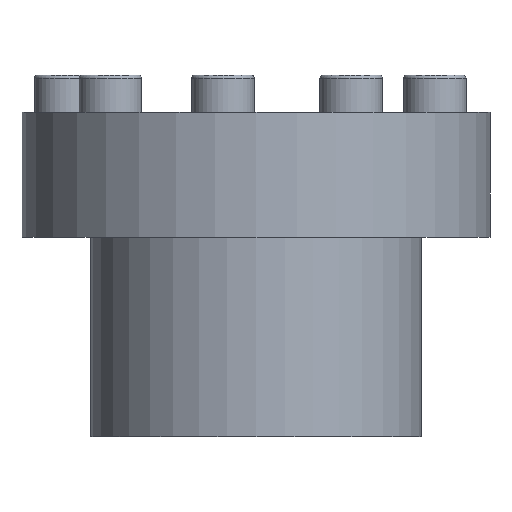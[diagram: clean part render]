
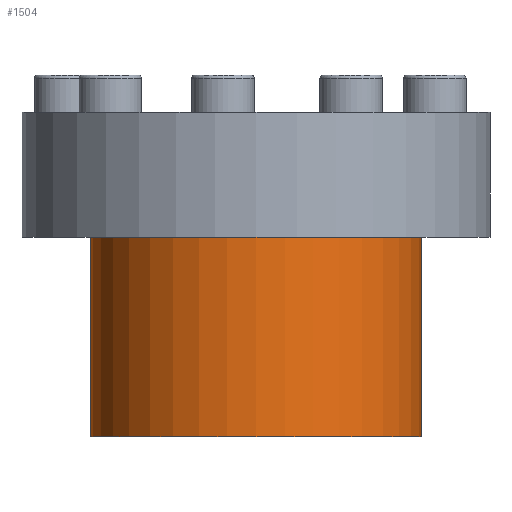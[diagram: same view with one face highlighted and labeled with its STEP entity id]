
A CAD part, front view. The second image highlights one B-rep face of the part: STEP entity #1504.
In plain terms, the highlighted cylindrical face has radius 26.5 mm (diameter 53 mm), a partial arc.
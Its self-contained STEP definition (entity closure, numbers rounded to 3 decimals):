
#6 = ORIENTED_EDGE ( 'NONE', *, *, #550, .F. ) ;
#21 = CARTESIAN_POINT ( 'NONE',  ( 0., 0., -20. ) ) ;
#147 = VERTEX_POINT ( 'NONE', #2901 ) ;
#245 = AXIS2_PLACEMENT_3D ( 'NONE', #21, #2679, #1377 ) ;
#470 = DIRECTION ( 'NONE',  ( 0., 0., 1. ) ) ;
#550 = EDGE_CURVE ( 'NONE', #147, #1762, #2880, .T. ) ;
#657 = DIRECTION ( 'NONE',  ( 0., 0., 1. ) ) ;
#700 = VECTOR ( 'NONE', #735, 1000. ) ;
#735 = DIRECTION ( 'NONE',  ( 0., 0., 1. ) ) ;
#781 = LINE ( 'NONE', #3237, #2101 ) ;
#900 = LINE ( 'NONE', #978, #700 ) ;
#978 = CARTESIAN_POINT ( 'NONE',  ( -26.5, 0., 0. ) ) ;
#1117 = AXIS2_PLACEMENT_3D ( 'NONE', #1703, #2453, #2433 ) ;
#1151 = FACE_OUTER_BOUND ( 'NONE', #2328, .T. ) ;
#1169 = ORIENTED_EDGE ( 'NONE', *, *, #3371, .T. ) ;
#1377 = DIRECTION ( 'NONE',  ( 1., 0., 0. ) ) ;
#1427 = ORIENTED_EDGE ( 'NONE', *, *, #1500, .F. ) ;
#1500 = EDGE_CURVE ( 'NONE', #3148, #147, #900, .T. ) ;
#1504 = ADVANCED_FACE ( 'NONE', ( #1151 ), #2549, .T. ) ;
#1703 = CARTESIAN_POINT ( 'NONE',  ( 0., 0., -52. ) ) ;
#1762 = VERTEX_POINT ( 'NONE', #3374 ) ;
#2077 = CARTESIAN_POINT ( 'NONE',  ( 0., 0., 0. ) ) ;
#2090 = EDGE_CURVE ( 'NONE', #2931, #1762, #781, .T. ) ;
#2101 = VECTOR ( 'NONE', #657, 1000. ) ;
#2328 = EDGE_LOOP ( 'NONE', ( #1427, #1169, #2659, #6 ) ) ;
#2433 = DIRECTION ( 'NONE',  ( 1., 0., 0. ) ) ;
#2441 = AXIS2_PLACEMENT_3D ( 'NONE', #2077, #470, #2816 ) ;
#2453 = DIRECTION ( 'NONE',  ( 0., 0., 1. ) ) ;
#2549 = CYLINDRICAL_SURFACE ( 'NONE', #2441, 26.5 ) ;
#2659 = ORIENTED_EDGE ( 'NONE', *, *, #2090, .T. ) ;
#2679 = DIRECTION ( 'NONE',  ( 0., 0., 1. ) ) ;
#2816 = DIRECTION ( 'NONE',  ( 1., 0., 0. ) ) ;
#2880 = CIRCLE ( 'NONE', #245, 26.5 ) ;
#2901 = CARTESIAN_POINT ( 'NONE',  ( -26.5, 0., -20. ) ) ;
#2903 = CIRCLE ( 'NONE', #1117, 26.5 ) ;
#2931 = VERTEX_POINT ( 'NONE', #3365 ) ;
#3128 = CARTESIAN_POINT ( 'NONE',  ( -26.5, 0., -52. ) ) ;
#3148 = VERTEX_POINT ( 'NONE', #3128 ) ;
#3237 = CARTESIAN_POINT ( 'NONE',  ( 26.5, 0., 0. ) ) ;
#3365 = CARTESIAN_POINT ( 'NONE',  ( 26.5, 0., -52. ) ) ;
#3371 = EDGE_CURVE ( 'NONE', #3148, #2931, #2903, .T. ) ;
#3374 = CARTESIAN_POINT ( 'NONE',  ( 26.5, 0., -20. ) ) ;
